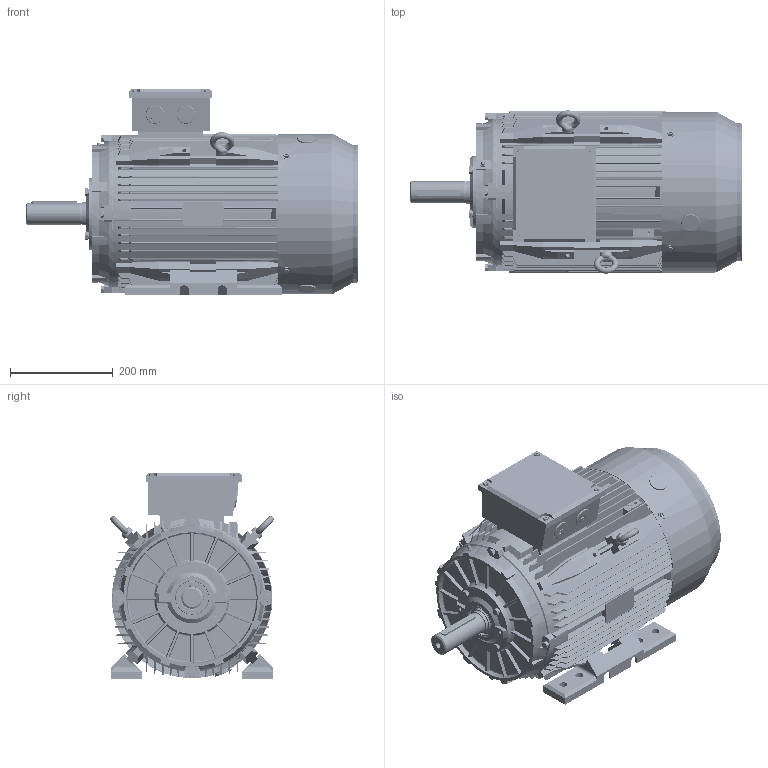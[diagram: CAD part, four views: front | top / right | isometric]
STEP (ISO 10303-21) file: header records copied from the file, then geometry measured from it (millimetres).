
FILE_DESCRIPTION (( 'STEP AP214' ), '1' );
FILE_NAME ('BCT4750.16H803.11.step', '2020-04-23T15:38:40', ( '' ), ( '' ), 'SwSTEP 2.0', 'SolidWorks 2019', '' );
FILE_SCHEMA (( 'AUTOMOTIVE_DESIGN' ));
Length unit declared in the file: millimetre
Products named in the file (1): BCT4750.16H803.11
Bounding box: 646.5 x 318.13 x 402.74 mm (x, y, z)
Volume: 9127068.3 mm3; surface area: 2867103.6 mm2
Topology: 53 solids, 54 shells, 6957 faces, 19896 edges, 12988 vertices
Faces by surface type: plane 3346, cylinder 2536, cone 463, torus 392, bspline 116, sphere 104
Entity records: 269838 total; most frequent: CARTESIAN_POINT 86431, ORIENTED_EDGE 39356, DIRECTION 37095, EDGE_CURVE 19678, AXIS2_PLACEMENT_3D 13046, VERTEX_POINT 12936, LINE 11003, VECTOR 11003
